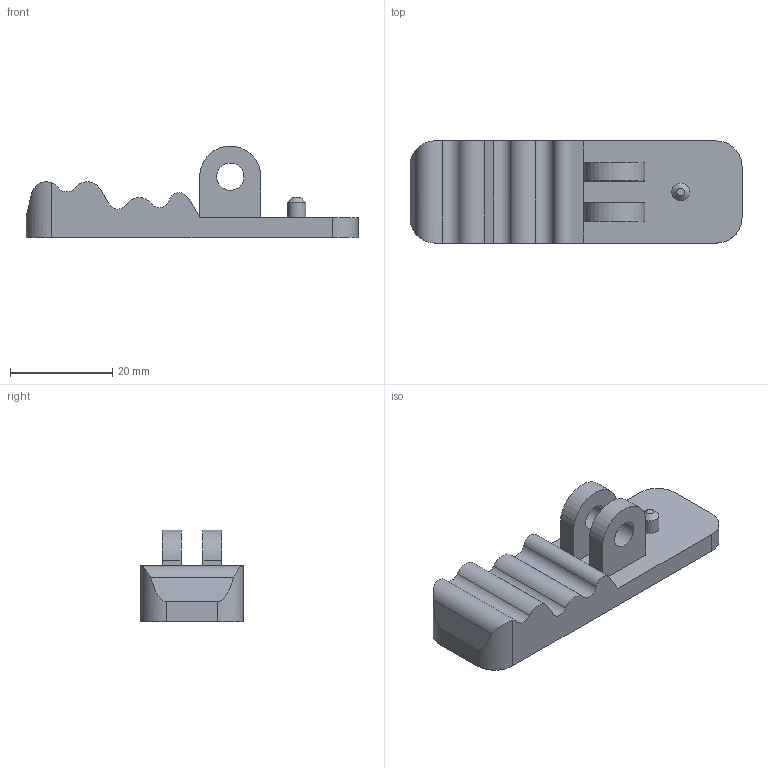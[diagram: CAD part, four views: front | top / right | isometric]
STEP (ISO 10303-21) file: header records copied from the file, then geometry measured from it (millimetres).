
FILE_DESCRIPTION(/* description */ (''),/* implementation_level */ '2;1');
FILE_NAME(/* name */ 'Clip 2.step',/* time_stamp */ '2025-04-22T12:36:05+05:30',/* author */ (''),/* organization */ (''),/* preprocessor_version */ 'ST-DEVELOPER v20.1',/* originating_system */ 'Autodesk Translation Framework v14.4.0.0',/* authorisation */ '');
FILE_SCHEMA (('AUTOMOTIVE_DESIGN { 1 0 10303 214 3 1 1 }'));
Length unit declared in the file: millimetre
Products named in the file (1): Clip 2
Bounding box: 65 x 20 x 18 mm (x, y, z)
Volume: 9003.8 mm3; surface area: 4609.8 mm2
Topology: 1 solids, 1 shells, 38 faces, 100 edges, 65 vertices
Faces by surface type: plane 21, cylinder 16, cone 1
Full cylindrical faces by diameter (mm): 3.5 x1, 5.3 x2
Entity records: 1243 total; most frequent: CARTESIAN_POINT 226, DIRECTION 209, ORIENTED_EDGE 200, EDGE_CURVE 100, AXIS2_PLACEMENT_3D 72, LINE 65, VECTOR 65, VERTEX_POINT 65
